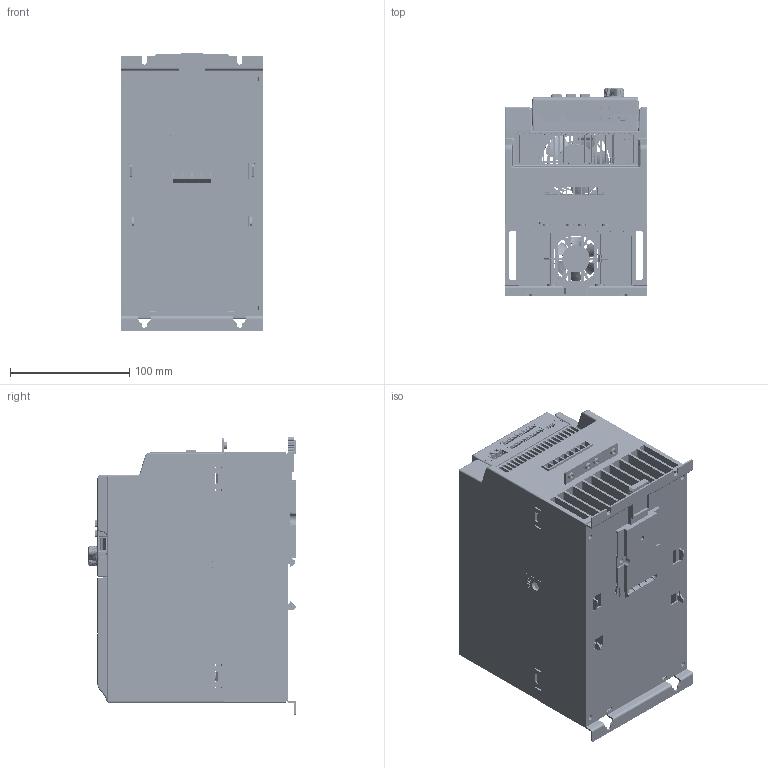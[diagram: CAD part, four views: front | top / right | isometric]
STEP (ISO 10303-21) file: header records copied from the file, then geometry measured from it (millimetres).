
FILE_DESCRIPTION((''),'2;1');
FILE_NAME('D_ASM','2014-07-29T',('zhi2xi'),(''),'PRO/ENGINEER BY PARAMETRIC TECHNOLOGY CORPORATION, 2009380','PRO/ENGINEER BY PARAMETRIC TECHNOLOGY CORPORATION, 2009380','');
FILE_SCHEMA(('CONFIG_CONTROL_DESIGN'));
Length unit declared in the file: millimetre
Products named in the file (74): HEATSINK_1_1; P_PCB-HOLDER2014_04_10_3_1; MANIFOLD_SOLID_BREP_29874_1; MANIFOLD_SOLID_BREP_30131_1; MANIFOLD_SOLID_BREP_30388_1; MANIFOLD_SOLID_BREP_30645_1; MANIFOLD_SOLID_BREP_30902_1; MANIFOLD_SOLID_BREP_31159_1; MANIFOLD_SOLID_BREP_31416_1; MANIFOLD_SOLID_BREP_31673_1; MANIFOLD_SOLID_BREP_31930_1; P_E1_1_ASM_1_ASM; HOUSING_1_1; P_FAN_COVER1-2014_04_10_1_1; P_FAN_COVER2-2014_04_10_1_1; MANIFOLD_SOLID_BREP_99831_1; MANIFOLD_SOLID_BREP_100033_1; MANIFOLD_SOLID_BREP_100235_1; MANIFOLD_SOLID_BREP_100437_1; MANIFOLD_SOLID_BREP_100639_1; MANIFOLD_SOLID_BREP_102384_1; MANIFOLD_SOLID_BREP_104131_1; D_5_DIBAN_4_ASM_1_ASM; PL_EFC5610_IOCAE_CONVER_1_1; LK_YCP06-PLATINE_1_1; CPU_CONNECTOR-14P_1_1; CONNECTOR_1_1; CONNECTOR_TYCO-331_1_1; 548190519_1_1; CONNECT2-2_1_1; MANIFOLD_SOLID_BREP_185930_1; MANIFOLD_SOLID_BREP_186043_1; MANIFOLD_SOLID_BREP_186156_1; 2185-205SY3_1_ASM_1_ASM; 1155590000_1_1; LK_YCP06_ASM_1_ASM_1_ASM; DB272710_1_1; 01-IOBACK_CASE_1_1; LD_KCCT_M3X10_1_1; E_CONNECTOR_2X5_IO_M_1_1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
Assembly tree (82 placements, depth 8):
  D_ASM
    D_ASM_1_ASM
      00-3PH_ASM_5_ASM_1_ASM
        00-D-S_ASM_3_ASM_1_ASM
          HEATSINK_1_1
          P_PCB-HOLDER2014_04_10_3_1
          P_E1_1_ASM_1_ASM
            MANIFOLD_SOLID_BREP_29874_1
            MANIFOLD_SOLID_BREP_30131_1
            MANIFOLD_SOLID_BREP_30388_1
            MANIFOLD_SOLID_BREP_30645_1
            MANIFOLD_SOLID_BREP_30902_1
            MANIFOLD_SOLID_BREP_31159_1
            MANIFOLD_SOLID_BREP_31416_1
            MANIFOLD_SOLID_BREP_31673_1
            MANIFOLD_SOLID_BREP_31930_1
          HOUSING_1_1
          P_FAN_COVER1-2014_04_10_1_1
          P_FAN_COVER2-2014_04_10_1_1
          D_5_DIBAN_4_ASM_1_ASM
            MANIFOLD_SOLID_BREP_99831_1
            MANIFOLD_SOLID_BREP_100033_1
            MANIFOLD_SOLID_BREP_100235_1
            MANIFOLD_SOLID_BREP_100437_1
            MANIFOLD_SOLID_BREP_100639_1
            MANIFOLD_SOLID_BREP_102384_1
            MANIFOLD_SOLID_BREP_104131_1
          01-IOCASE_ASM_1_ASM_1_ASM
            PL_EFC5610_IOCAE_CONVER_1_1
            LK_YCP06_ASM_1_ASM_1_ASM
              LK_YCP06-PLATINE_1_1
              CPU_CONNECTOR-14P_1_1
              CONNECTOR_1_1
              CONNECTOR_TYCO-331_1_1
              548190519_1_1
              CONNECT2-2_1_1
              2185-205SY3_1_ASM_1_ASM
                MANIFOLD_SOLID_BREP_185930_1
                MANIFOLD_SOLID_BREP_186043_1
                MANIFOLD_SOLID_BREP_186156_1
              1155590000_1_1
            DB272710_1_1
            01-IOBACK_CASE_1_1
            LD_KCCT_M3X10_1_1  x2
            E_CONNECTOR_2X5_IO_M_1_1
          E_FAN_6015_1_1
          E_FAN_4028_1_1
          DIN-0423_ASM_1_ASM_1_ASM
            PRT0010_0423_1_1
            PRT0031_0423_1_1
            B_5_DIBAN_0423_1_ASM_1_ASM
              MANIFOLD_SOLID_BREP_280259_1
              MANIFOLD_SOLID_BREP_280461_1
              MANIFOLD_SOLID_BREP_280663_1
              MANIFOLD_SOLID_BREP_280865_1
          EMC-01_1_ASM_1_ASM
            MANIFOLD_SOLID_BREP_285500_1
            MANIFOLD_SOLID_BREP_285757_1
            MANIFOLD_SOLID_BREP_286014_1
            MANIFOLD_SOLID_BREP_286271_1
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Bounding box: 120 x 175.05 x 233.5 mm (x, y, z)
Volume: 845783.4 mm3; surface area: 759404.7 mm2
Topology: 68 solids, 74 shells, 10103 faces, 27346 edges, 17520 vertices
Faces by surface type: plane 6416, cylinder 2121, bspline 538, cone 399, torus 323, sphere 172, extrusion 134
Entity records: 400491 total; most frequent: CARTESIAN_POINT 93026, ORIENTED_EDGE 50690, DIRECTION 45856, EDGE_CURVE 25345, PRESENTATION_STYLE_ASSIGNMENT 20215, STYLED_ITEM 19553, CURVE_STYLE 18830, VECTOR 18038
